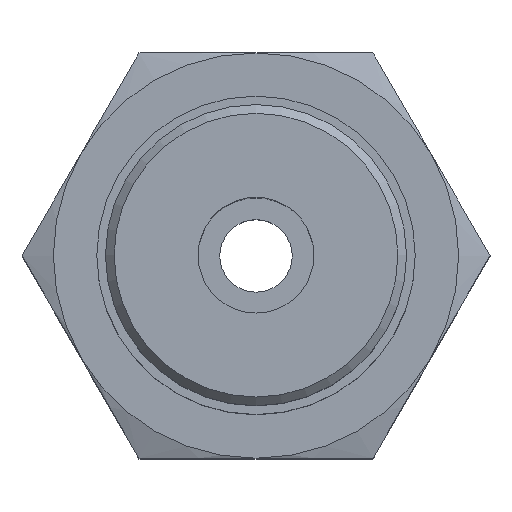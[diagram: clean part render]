
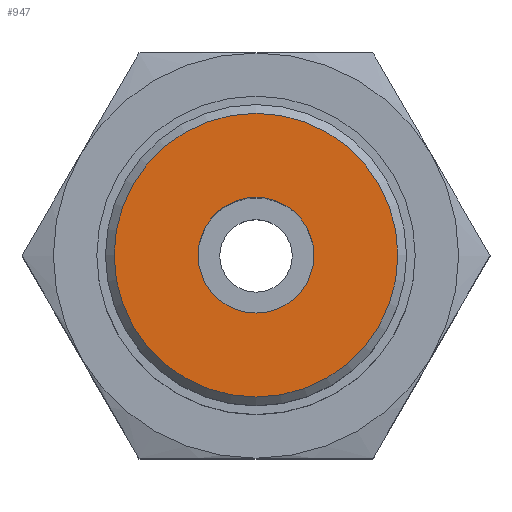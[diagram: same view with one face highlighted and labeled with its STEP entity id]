
A CAD part, top view. The second image highlights one B-rep face of the part: STEP entity #947.
In plain terms, the highlighted planar face has unit normal (0, 0, 1).
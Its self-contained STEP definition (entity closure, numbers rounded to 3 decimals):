
#72=FACE_BOUND('',#243,.T.);
#92=PLANE('',#1074);
#167=FACE_OUTER_BOUND('',#242,.T.);
#242=EDGE_LOOP('',(#769));
#243=EDGE_LOOP('',(#770));
#369=CIRCLE('',#1069,4.9);
#373=CIRCLE('',#1075,2.);
#442=VERTEX_POINT('',#1619);
#446=VERTEX_POINT('',#1631);
#553=EDGE_CURVE('',#442,#442,#369,.T.);
#559=EDGE_CURVE('',#446,#446,#373,.T.);
#769=ORIENTED_EDGE('',*,*,#553,.F.);
#770=ORIENTED_EDGE('',*,*,#559,.T.);
#947=ADVANCED_FACE('',(#167,#72),#92,.T.);
#1069=AXIS2_PLACEMENT_3D('',#1620,#1282,#1283);
#1074=AXIS2_PLACEMENT_3D('',#1630,#1294,#1295);
#1075=AXIS2_PLACEMENT_3D('',#1632,#1296,#1297);
#1282=DIRECTION('center_axis',(0.,0.,-1.));
#1283=DIRECTION('ref_axis',(1.,0.,0.));
#1294=DIRECTION('center_axis',(0.,0.,1.));
#1295=DIRECTION('ref_axis',(1.,0.,0.));
#1296=DIRECTION('center_axis',(0.,0.,-1.));
#1297=DIRECTION('ref_axis',(1.,0.,0.));
#1619=CARTESIAN_POINT('',(-4.9,0.,16.5));
#1620=CARTESIAN_POINT('Origin',(0.,0.,16.5));
#1630=CARTESIAN_POINT('Origin',(0.,0.,16.5));
#1631=CARTESIAN_POINT('',(-2.,0.,16.5));
#1632=CARTESIAN_POINT('Origin',(0.,0.,16.5));
